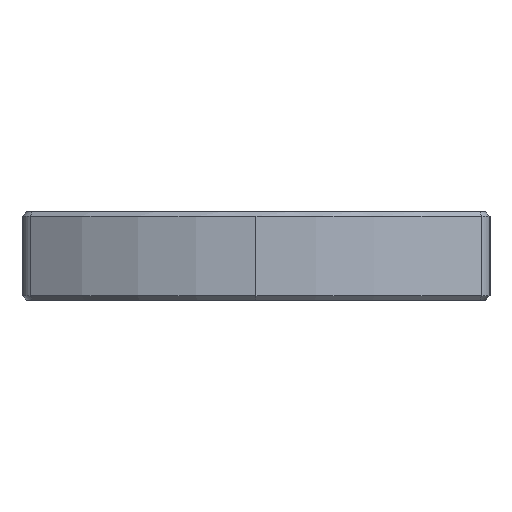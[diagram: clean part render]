
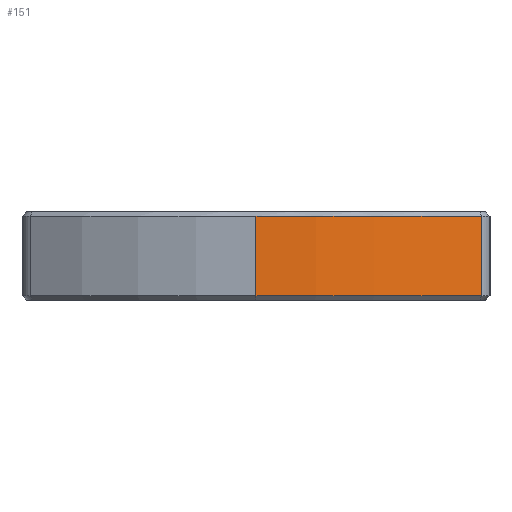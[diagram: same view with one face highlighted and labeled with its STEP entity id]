
A CAD part, left-side view. The second image highlights one B-rep face of the part: STEP entity #151.
In plain terms, the highlighted cylindrical face has radius 27 mm (diameter 54 mm), a partial arc.
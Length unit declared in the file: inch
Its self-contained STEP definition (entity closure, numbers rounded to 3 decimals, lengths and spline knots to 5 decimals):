
#108 = CARTESIAN_POINT ( 'NONE',  ( -2.12795, 0., -0.49981 ) ) ;
#151 = ADVANCED_FACE ( 'NONE', ( #4983 ), #3030, .T. ) ;
#498 = CARTESIAN_POINT ( 'NONE',  ( -3.00239, -0.60441, -0.28759 ) ) ;
#679 = CARTESIAN_POINT ( 'NONE',  ( -3.00239, -0.60441, -0.49981 ) ) ;
#724 = AXIS2_PLACEMENT_3D ( 'NONE', #4650, #2250, #2700 ) ;
#862 = EDGE_CURVE ( 'NONE', #3519, #1283, #4485, .T. ) ;
#879 = CARTESIAN_POINT ( 'NONE',  ( -3.19094, 0., -0.28759 ) ) ;
#960 = CARTESIAN_POINT ( 'NONE',  ( -3.19094, 0., -0.49981 ) ) ;
#1283 = VERTEX_POINT ( 'NONE', #879 ) ;
#1341 = ORIENTED_EDGE ( 'NONE', *, *, #3706, .T. ) ;
#1352 = DIRECTION ( 'NONE',  ( 0., 0., -1. ) ) ;
#1364 = EDGE_LOOP ( 'NONE', ( #2385, #3017, #1341, #2923 ) ) ;
#1795 = CARTESIAN_POINT ( 'NONE',  ( -2.12795, 0., -0.28759 ) ) ;
#1869 = CIRCLE ( 'NONE', #2759, 1.06299 ) ;
#1947 = DIRECTION ( 'NONE',  ( -1., 0., 0. ) ) ;
#1961 = LINE ( 'NONE', #4256, #4871 ) ;
#2069 = CARTESIAN_POINT ( 'NONE',  ( -3.00239, -0.60441, -0.51181 ) ) ;
#2250 = DIRECTION ( 'NONE',  ( 0., 0., -1. ) ) ;
#2278 = AXIS2_PLACEMENT_3D ( 'NONE', #1795, #1352, #4912 ) ;
#2371 = VERTEX_POINT ( 'NONE', #679 ) ;
#2385 = ORIENTED_EDGE ( 'NONE', *, *, #862, .T. ) ;
#2645 = VECTOR ( 'NONE', #2829, 39.37008 ) ;
#2700 = DIRECTION ( 'NONE',  ( -1., 0., 0. ) ) ;
#2747 = LINE ( 'NONE', #2069, #2645 ) ;
#2759 = AXIS2_PLACEMENT_3D ( 'NONE', #108, #3956, #1947 ) ;
#2829 = DIRECTION ( 'NONE',  ( 0., 0., 1. ) ) ;
#2923 = ORIENTED_EDGE ( 'NONE', *, *, #5002, .T. ) ;
#3017 = ORIENTED_EDGE ( 'NONE', *, *, #4442, .T. ) ;
#3030 = CYLINDRICAL_SURFACE ( 'NONE', #724, 1.06299 ) ;
#3519 = VERTEX_POINT ( 'NONE', #498 ) ;
#3706 = EDGE_CURVE ( 'NONE', #4226, #2371, #1869, .T. ) ;
#3845 = DIRECTION ( 'NONE',  ( 0., 0., -1. ) ) ;
#3956 = DIRECTION ( 'NONE',  ( 0., 0., 1. ) ) ;
#4226 = VERTEX_POINT ( 'NONE', #960 ) ;
#4256 = CARTESIAN_POINT ( 'NONE',  ( -3.19094, 0., -0.51181 ) ) ;
#4442 = EDGE_CURVE ( 'NONE', #1283, #4226, #1961, .T. ) ;
#4485 = CIRCLE ( 'NONE', #2278, 1.06299 ) ;
#4650 = CARTESIAN_POINT ( 'NONE',  ( -2.12795, 0., -0.51181 ) ) ;
#4871 = VECTOR ( 'NONE', #3845, 39.37008 ) ;
#4912 = DIRECTION ( 'NONE',  ( -1., 0., 0. ) ) ;
#4983 = FACE_OUTER_BOUND ( 'NONE', #1364, .T. ) ;
#5002 = EDGE_CURVE ( 'NONE', #2371, #3519, #2747, .T. ) ;
